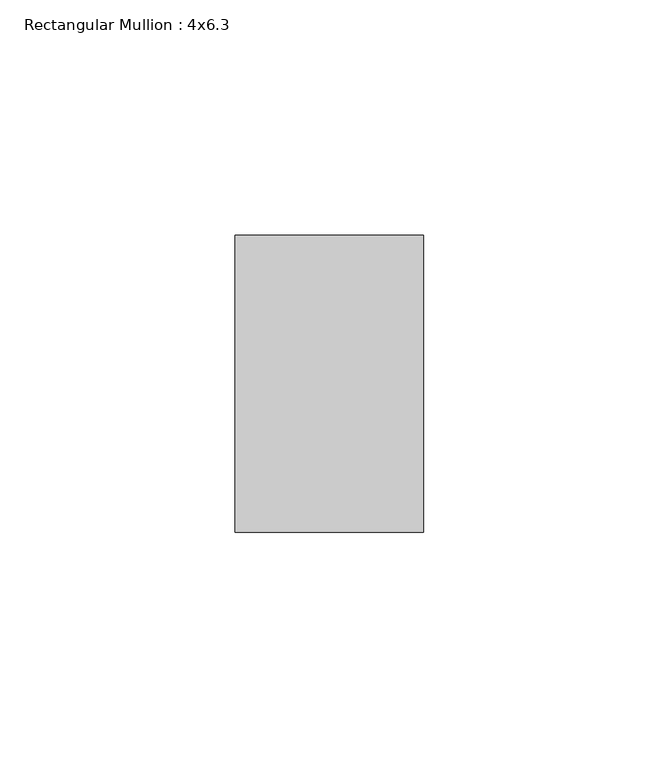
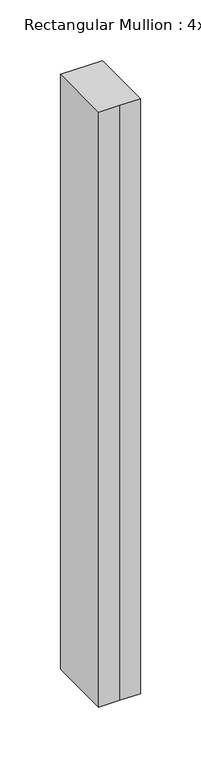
"""IFC4 building model written with IfcOpenShell, lengths in millimetres: member geometry, Rectangular Mullion : 4x6.3."""

from ifc_helpers import new_model, si_unit, frame, origin, place, context, project, spatial, polyline, outline, extrude, source, transform, mapped, element, save


def rectangular_mullion_4x6_3_1b61256b(model_context):
    return source(origin(), model_context, "Body", "SweptSolid", [
        extrude(outline(polyline([(-20.0, 20.0), (-20.0, 83.0), (20.0, 83.0), (20.0, 20.0), (0.0, 20.0), (-20.0, 20.0)])), frame((0.0, 0.0, -599.3758709), z_axis=(0.0, 0.0, 1.0), x_axis=(1.0, 0.0, 0.0)), (0.0, 0.0, 1.0), 599.3758709),
    ])


if __name__ == "__main__":
    model = new_model("IFC4")
    model_context = context("Model", 3, world=origin())
    ifc_project = project(units=[si_unit("LENGTHUNIT", "METRE", prefix="MILLI")], contexts=[model_context])
    site = spatial("IfcSite", under=ifc_project)
    building = spatial("IfcBuilding", under=site)
    placement = place(None, origin())
    rectangular_mullion_4x6_3_shape = rectangular_mullion_4x6_3_1b61256b(model_context)
    element("IfcMember", 1, ObjectType="Rectangular Mullion : 4x6.3", at=placement, inside=building, context=model_context, shape_type="MappedRepresentation", body=[
        mapped(rectangular_mullion_4x6_3_shape, transform((0.0, 0.0, 0.0), x_axis=(1.0, 0.0, 0.0), y_axis=(0.0, 1.0, 0.0), z_axis=(0.0, 0.0, 1.0))),
    ])
    save(model, "model.ifc")
